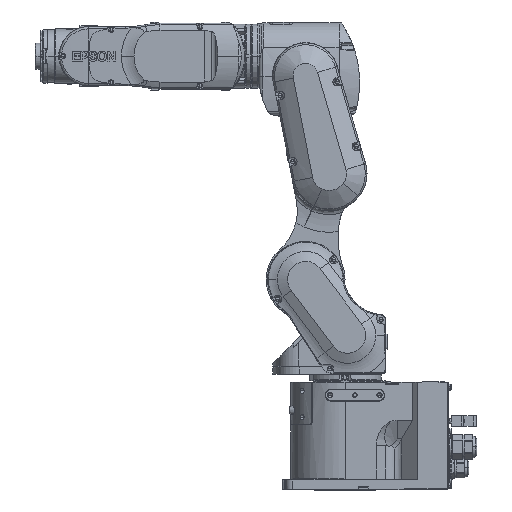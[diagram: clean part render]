
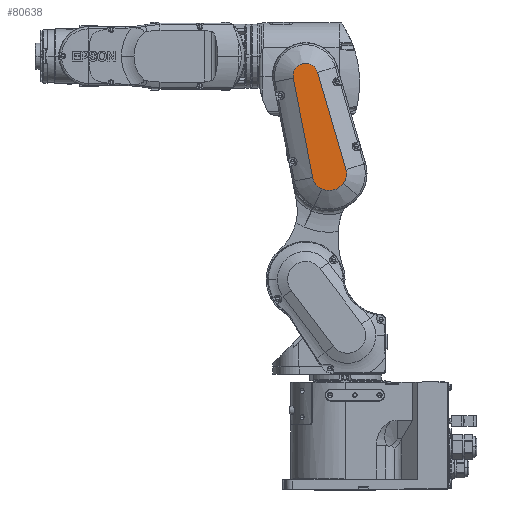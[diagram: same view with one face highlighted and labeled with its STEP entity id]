
A CAD part, top view. The second image highlights one B-rep face of the part: STEP entity #80638.
In plain terms, the highlighted planar face has unit normal (0, 0, 1).
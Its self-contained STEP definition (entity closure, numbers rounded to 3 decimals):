
#3816 = EDGE_LOOP ( 'NONE', ( #98002, #57965, #107434, #154343, #131526, #132222, #62220 ) ) ;
#7284 = DIRECTION ( 'NONE',  ( -1., 0., 0. ) ) ;
#9046 = CARTESIAN_POINT ( 'NONE',  ( 35.69, 163.04, 110. ) ) ;
#11270 = VERTEX_POINT ( 'NONE', #162383 ) ;
#22195 = CARTESIAN_POINT ( 'NONE',  ( 24.508, 137.926, 110. ) ) ;
#22485 = DIRECTION ( 'NONE',  ( 0.191, -0.982, 0. ) ) ;
#24710 = CIRCLE ( 'NONE', #156664, 27.491 ) ;
#26332 = DIRECTION ( 'NONE',  ( -0.982, -0.191, 0. ) ) ;
#29983 = VECTOR ( 'NONE', #33631, 1000. ) ;
#33631 = DIRECTION ( 'NONE',  ( -0.982, -0.191, 0. ) ) ;
#35575 = LINE ( 'NONE', #111488, #146660 ) ;
#38181 = CARTESIAN_POINT ( 'NONE',  ( 34.266, 159.843, 110. ) ) ;
#41522 = VERTEX_POINT ( 'NONE', #73949 ) ;
#42742 = DIRECTION ( 'NONE',  ( 0., 0., 1. ) ) ;
#44688 = CARTESIAN_POINT ( 'NONE',  ( 18.231, 315.323, 110. ) ) ;
#48009 = VERTEX_POINT ( 'NONE', #57324 ) ;
#50809 = DIRECTION ( 'NONE',  ( 0., 0., 1. ) ) ;
#57324 = CARTESIAN_POINT ( 'NONE',  ( 61.437, 167.571, 110. ) ) ;
#57965 = ORIENTED_EDGE ( 'NONE', *, *, #80046, .T. ) ;
#62220 = ORIENTED_EDGE ( 'NONE', *, *, #152041, .T. ) ;
#71989 = EDGE_CURVE ( 'NONE', #11270, #48009, #112232, .T. ) ;
#73383 = AXIS2_PLACEMENT_3D ( 'NONE', #76853, #114808, #156103 ) ;
#73715 = EDGE_CURVE ( 'NONE', #150275, #119920, #100878, .T. ) ;
#73949 = CARTESIAN_POINT ( 'NONE',  ( -18.641, 306.382, 110. ) ) ;
#76853 = CARTESIAN_POINT ( 'NONE',  ( 24.508, 137.926, 110. ) ) ;
#78700 = DIRECTION ( 'NONE',  ( 0.777, -0.629, 0. ) ) ;
#79475 = CARTESIAN_POINT ( 'NONE',  ( -18.644, 306.381, 110. ) ) ;
#80046 = EDGE_CURVE ( 'NONE', #41522, #150275, #123108, .T. ) ;
#80638 = ADVANCED_FACE ( 'NONE', ( #133696 ), #86975, .F. ) ;
#86159 = DIRECTION ( 'NONE',  ( -0.281, 0.96, 0. ) ) ;
#86975 = PLANE ( 'NONE',  #73383 ) ;
#96032 = AXIS2_PLACEMENT_3D ( 'NONE', #134948, #147602, #78700 ) ;
#97158 = EDGE_CURVE ( 'NONE', #110909, #11270, #24710, .T. ) ;
#98002 = ORIENTED_EDGE ( 'NONE', *, *, #164394, .T. ) ;
#99212 = VERTEX_POINT ( 'NONE', #44688 ) ;
#100878 = LINE ( 'NONE', #154016, #131237 ) ;
#107434 = ORIENTED_EDGE ( 'NONE', *, *, #73715, .T. ) ;
#110909 = VERTEX_POINT ( 'NONE', #22195 ) ;
#111488 = CARTESIAN_POINT ( 'NONE',  ( 61.437, 167.571, 110. ) ) ;
#112232 = CIRCLE ( 'NONE', #96032, 23.991 ) ;
#112937 = CARTESIAN_POINT ( 'NONE',  ( -18.641, 306.382, 110. ) ) ;
#114808 = DIRECTION ( 'NONE',  ( 0., 0., -1. ) ) ;
#116601 = EDGE_CURVE ( 'NONE', #119920, #110909, #123605, .T. ) ;
#118177 = AXIS2_PLACEMENT_3D ( 'NONE', #38181, #50809, #26332 ) ;
#119920 = VERTEX_POINT ( 'NONE', #126781 ) ;
#123108 = LINE ( 'NONE', #112937, #29983 ) ;
#123605 = CIRCLE ( 'NONE', #118177, 23.991 ) ;
#126781 = CARTESIAN_POINT ( 'NONE',  ( 10.716, 155.267, 110. ) ) ;
#131237 = VECTOR ( 'NONE', #22485, 1000. ) ;
#131526 = ORIENTED_EDGE ( 'NONE', *, *, #97158, .T. ) ;
#132222 = ORIENTED_EDGE ( 'NONE', *, *, #71989, .T. ) ;
#133696 = FACE_OUTER_BOUND ( 'NONE', #3816, .T. ) ;
#134948 = CARTESIAN_POINT ( 'NONE',  ( 38.41, 160.837, 110. ) ) ;
#146660 = VECTOR ( 'NONE', #86159, 1000. ) ;
#147328 = CARTESIAN_POINT ( 'NONE',  ( 0.003, 309.993, 110. ) ) ;
#147602 = DIRECTION ( 'NONE',  ( 0., 0., 1. ) ) ;
#149428 = AXIS2_PLACEMENT_3D ( 'NONE', #147328, #42742, #7284 ) ;
#150275 = VERTEX_POINT ( 'NONE', #79475 ) ;
#151579 = DIRECTION ( 'NONE',  ( 0., 0., 1. ) ) ;
#152041 = EDGE_CURVE ( 'NONE', #48009, #99212, #35575, .T. ) ;
#154016 = CARTESIAN_POINT ( 'NONE',  ( -18.644, 306.381, 110. ) ) ;
#154343 = ORIENTED_EDGE ( 'NONE', *, *, #116601, .T. ) ;
#156103 = DIRECTION ( 'NONE',  ( 0., -1., 0. ) ) ;
#156664 = AXIS2_PLACEMENT_3D ( 'NONE', #9046, #151579, #162553 ) ;
#162383 = CARTESIAN_POINT ( 'NONE',  ( 57.055, 145.739, 110. ) ) ;
#162553 = DIRECTION ( 'NONE',  ( -0.407, -0.914, 0. ) ) ;
#162936 = CIRCLE ( 'NONE', #149428, 18.991 ) ;
#164394 = EDGE_CURVE ( 'NONE', #99212, #41522, #162936, .T. ) ;
